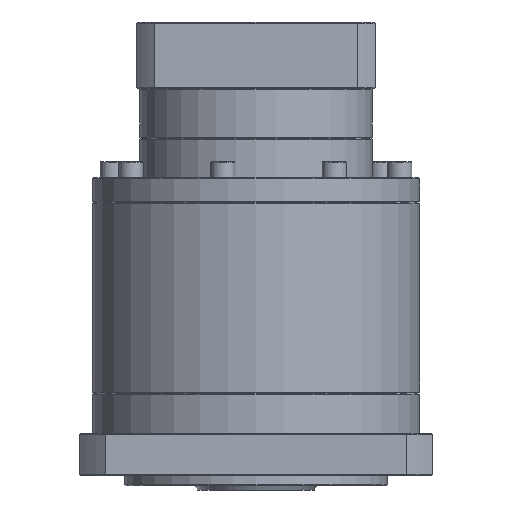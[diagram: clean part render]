
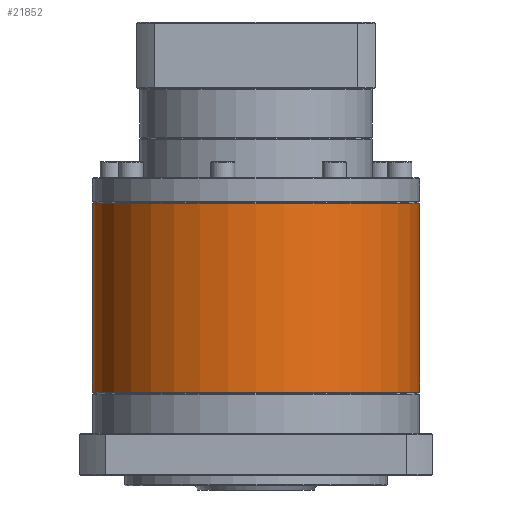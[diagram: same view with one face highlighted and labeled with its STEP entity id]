
A CAD part, front view. The second image highlights one B-rep face of the part: STEP entity #21852.
In plain terms, the highlighted cylindrical face has radius 81 mm (diameter 162 mm), a partial arc.
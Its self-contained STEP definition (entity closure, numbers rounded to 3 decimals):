
#2170 = VERTEX_POINT ( 'NONE', #14358 ) ;
#2171 = DIRECTION ( 'NONE',  ( 0., 0., -1. ) ) ;
#2684 = DIRECTION ( 'NONE',  ( 0., 0., 1. ) ) ;
#3441 = CIRCLE ( 'NONE', #74622, 81. ) ;
#5121 = VERTEX_POINT ( 'NONE', #54452 ) ;
#7180 = EDGE_CURVE ( 'NONE', #69915, #2170, #70837, .T. ) ;
#14358 = CARTESIAN_POINT ( 'NONE',  ( -29.837, 83.568, -235.255 ) ) ;
#17629 = EDGE_LOOP ( 'NONE', ( #30297, #90528, #103516, #117609 ) ) ;
#18181 = FACE_OUTER_BOUND ( 'NONE', #17629, .T. ) ;
#21852 = ADVANCED_FACE ( 'NONE', ( #18181 ), #26430, .T. ) ;
#26146 = AXIS2_PLACEMENT_3D ( 'NONE', #43340, #2684, #34634 ) ;
#26430 = CYLINDRICAL_SURFACE ( 'NONE', #61171, 81. ) ;
#30297 = ORIENTED_EDGE ( 'NONE', *, *, #81319, .F. ) ;
#34460 = VECTOR ( 'NONE', #48994, 1000. ) ;
#34634 = DIRECTION ( 'NONE',  ( -1., 0., 0. ) ) ;
#36388 = EDGE_CURVE ( 'NONE', #66755, #5121, #3441, .T. ) ;
#37713 = CARTESIAN_POINT ( 'NONE',  ( -110.837, 83.568, -141.255 ) ) ;
#43340 = CARTESIAN_POINT ( 'NONE',  ( -110.837, 83.568, -235.255 ) ) ;
#44152 = CARTESIAN_POINT ( 'NONE',  ( -191.837, 83.568, -235.255 ) ) ;
#48994 = DIRECTION ( 'NONE',  ( 0., 0., -1. ) ) ;
#49107 = VECTOR ( 'NONE', #2171, 1000. ) ;
#54452 = CARTESIAN_POINT ( 'NONE',  ( -191.837, 83.568, -141.755 ) ) ;
#61171 = AXIS2_PLACEMENT_3D ( 'NONE', #37713, #121804, #110786 ) ;
#66755 = VERTEX_POINT ( 'NONE', #80818 ) ;
#69915 = VERTEX_POINT ( 'NONE', #44152 ) ;
#70837 = CIRCLE ( 'NONE', #26146, 81. ) ;
#72000 = LINE ( 'NONE', #79979, #34460 ) ;
#74622 = AXIS2_PLACEMENT_3D ( 'NONE', #113331, #114691, #104104 ) ;
#79979 = CARTESIAN_POINT ( 'NONE',  ( -29.837, 83.568, -141.255 ) ) ;
#80818 = CARTESIAN_POINT ( 'NONE',  ( -29.837, 83.568, -141.755 ) ) ;
#81319 = EDGE_CURVE ( 'NONE', #66755, #2170, #72000, .T. ) ;
#84918 = EDGE_CURVE ( 'NONE', #5121, #69915, #89926, .T. ) ;
#89926 = LINE ( 'NONE', #105834, #49107 ) ;
#90528 = ORIENTED_EDGE ( 'NONE', *, *, #36388, .T. ) ;
#103516 = ORIENTED_EDGE ( 'NONE', *, *, #84918, .T. ) ;
#104104 = DIRECTION ( 'NONE',  ( -1., 0., 0. ) ) ;
#105834 = CARTESIAN_POINT ( 'NONE',  ( -191.837, 83.568, -141.255 ) ) ;
#110786 = DIRECTION ( 'NONE',  ( -1., 0., 0. ) ) ;
#113331 = CARTESIAN_POINT ( 'NONE',  ( -110.837, 83.568, -141.755 ) ) ;
#114691 = DIRECTION ( 'NONE',  ( 0., 0., -1. ) ) ;
#117609 = ORIENTED_EDGE ( 'NONE', *, *, #7180, .T. ) ;
#121804 = DIRECTION ( 'NONE',  ( 0., 0., -1. ) ) ;
